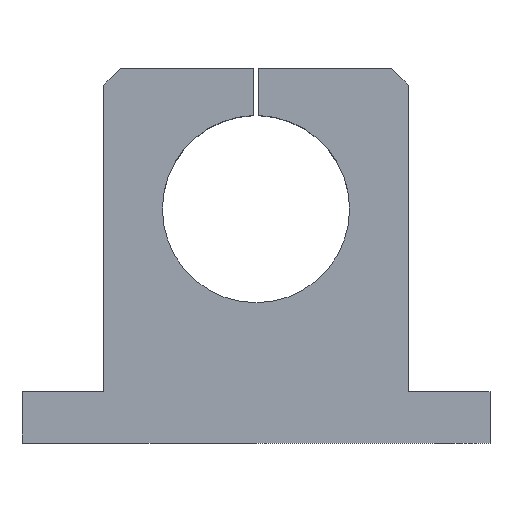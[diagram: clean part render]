
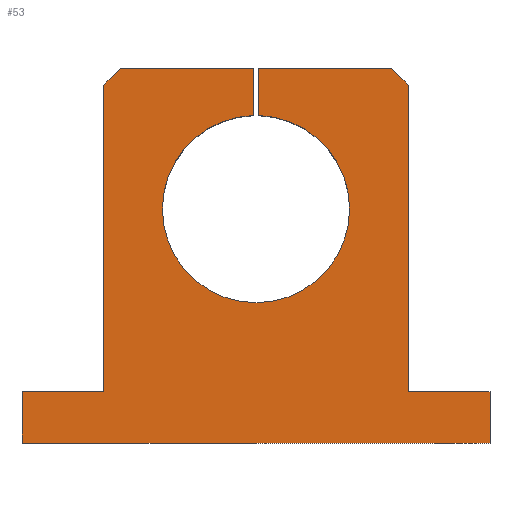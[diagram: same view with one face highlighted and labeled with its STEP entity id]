
A CAD part, top view. The second image highlights one B-rep face of the part: STEP entity #53.
In plain terms, the highlighted planar face has unit normal (0, 0, 1).
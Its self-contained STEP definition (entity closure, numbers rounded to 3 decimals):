
#1 = LINE ( 'NONE', #69, #617 ) ;
#5 = VECTOR ( 'NONE', #848, 1000. ) ;
#42 = DIRECTION ( 'NONE',  ( 0., 0., 1. ) ) ;
#49 = DIRECTION ( 'NONE',  ( 0., 1., 0. ) ) ;
#53 = ADVANCED_FACE ( 'NONE', ( #945 ), #229, .T. ) ;
#69 = CARTESIAN_POINT ( 'NONE',  ( -100., 80., 30. ) ) ;
#73 = ORIENTED_EDGE ( 'NONE', *, *, #534, .F. ) ;
#75 = VECTOR ( 'NONE', #49, 1000. ) ;
#80 = EDGE_CURVE ( 'NONE', #611, #485, #472, .T. ) ;
#95 = LINE ( 'NONE', #437, #223 ) ;
#103 = ORIENTED_EDGE ( 'NONE', *, *, #453, .T. ) ;
#108 = EDGE_CURVE ( 'NONE', #708, #190, #334, .T. ) ;
#109 = CARTESIAN_POINT ( 'NONE',  ( 100., -58., 30. ) ) ;
#122 = DIRECTION ( 'NONE',  ( -0.707, -0.707, 0. ) ) ;
#149 = CARTESIAN_POINT ( 'NONE',  ( -40., 20., 30. ) ) ;
#156 = AXIS2_PLACEMENT_3D ( 'NONE', #777, #42, #381 ) ;
#157 = CARTESIAN_POINT ( 'NONE',  ( -58., 80., 30. ) ) ;
#158 = VECTOR ( 'NONE', #248, 1000. ) ;
#164 = ORIENTED_EDGE ( 'NONE', *, *, #187, .F. ) ;
#166 = CARTESIAN_POINT ( 'NONE',  ( -1.075, 26.52, 30. ) ) ;
#184 = ORIENTED_EDGE ( 'NONE', *, *, #949, .T. ) ;
#187 = EDGE_CURVE ( 'NONE', #1054, #902, #652, .T. ) ;
#190 = VERTEX_POINT ( 'NONE', #807 ) ;
#206 = CARTESIAN_POINT ( 'NONE',  ( -100., -58., 30. ) ) ;
#208 = LINE ( 'NONE', #835, #310 ) ;
#218 = CARTESIAN_POINT ( 'NONE',  ( 65., 80., 30. ) ) ;
#223 = VECTOR ( 'NONE', #582, 1000. ) ;
#224 = CARTESIAN_POINT ( 'NONE',  ( 69., 69., 30. ) ) ;
#226 = DIRECTION ( 'NONE',  ( 0., -1., 0. ) ) ;
#229 = PLANE ( 'NONE',  #953 ) ;
#241 = LINE ( 'NONE', #340, #158 ) ;
#248 = DIRECTION ( 'NONE',  ( -1., 0., 0. ) ) ;
#255 = DIRECTION ( 'NONE',  ( 0., -1., 0. ) ) ;
#266 = DIRECTION ( 'NONE',  ( 0., 0., 1. ) ) ;
#276 = VECTOR ( 'NONE', #531, 1000. ) ;
#282 = EDGE_CURVE ( 'NONE', #583, #363, #684, .T. ) ;
#285 = ORIENTED_EDGE ( 'NONE', *, *, #439, .T. ) ;
#291 = ORIENTED_EDGE ( 'NONE', *, *, #80, .T. ) ;
#310 = VECTOR ( 'NONE', #122, 1000. ) ;
#314 = LINE ( 'NONE', #947, #75 ) ;
#334 = CIRCLE ( 'NONE', #918, 40. ) ;
#338 = VERTEX_POINT ( 'NONE', #644 ) ;
#340 = CARTESIAN_POINT ( 'NONE',  ( -100., 80., 30. ) ) ;
#363 = VERTEX_POINT ( 'NONE', #483 ) ;
#381 = DIRECTION ( 'NONE',  ( 1., 0., 0. ) ) ;
#387 = ORIENTED_EDGE ( 'NONE', *, *, #1040, .F. ) ;
#390 = DIRECTION ( 'NONE',  ( 1., 0., 0. ) ) ;
#405 = CARTESIAN_POINT ( 'NONE',  ( -100., -80., 30. ) ) ;
#417 = CARTESIAN_POINT ( 'NONE',  ( 0., 20., 30. ) ) ;
#418 = VECTOR ( 'NONE', #255, 1000. ) ;
#430 = CIRCLE ( 'NONE', #156, 40. ) ;
#432 = CARTESIAN_POINT ( 'NONE',  ( -100., -58., 30. ) ) ;
#436 = LINE ( 'NONE', #600, #632 ) ;
#437 = CARTESIAN_POINT ( 'NONE',  ( -100., 80., 30. ) ) ;
#439 = EDGE_CURVE ( 'NONE', #546, #611, #1, .T. ) ;
#442 = DIRECTION ( 'NONE',  ( 0., 1., 0. ) ) ;
#443 = VERTEX_POINT ( 'NONE', #884 ) ;
#453 = EDGE_CURVE ( 'NONE', #675, #338, #241, .T. ) ;
#462 = VECTOR ( 'NONE', #1018, 1000. ) ;
#472 = LINE ( 'NONE', #405, #849 ) ;
#483 = CARTESIAN_POINT ( 'NONE',  ( 100., -58., 30. ) ) ;
#485 = VERTEX_POINT ( 'NONE', #736 ) ;
#509 = AXIS2_PLACEMENT_3D ( 'NONE', #417, #641, #956 ) ;
#520 = EDGE_LOOP ( 'NONE', ( #73, #935, #910, #387, #164, #865, #184, #523, #767, #285, #291, #697, #610, #825, #719, #103 ) ) ;
#523 = ORIENTED_EDGE ( 'NONE', *, *, #733, .F. ) ;
#525 = VECTOR ( 'NONE', #226, 1000. ) ;
#531 = DIRECTION ( 'NONE',  ( -0.707, 0.707, 0. ) ) ;
#534 = EDGE_CURVE ( 'NONE', #443, #338, #436, .T. ) ;
#546 = VERTEX_POINT ( 'NONE', #432 ) ;
#549 = LINE ( 'NONE', #1023, #5 ) ;
#554 = VERTEX_POINT ( 'NONE', #836 ) ;
#556 = DIRECTION ( 'NONE',  ( 1., 0., 0. ) ) ;
#582 = DIRECTION ( 'NONE',  ( -1., 0., 0. ) ) ;
#583 = VERTEX_POINT ( 'NONE', #676 ) ;
#600 = CARTESIAN_POINT ( 'NONE',  ( 1.075, 26.52, 30. ) ) ;
#610 = ORIENTED_EDGE ( 'NONE', *, *, #282, .F. ) ;
#611 = VERTEX_POINT ( 'NONE', #996 ) ;
#617 = VECTOR ( 'NONE', #725, 1000. ) ;
#628 = DIRECTION ( 'NONE',  ( 0., 0., 1. ) ) ;
#629 = LINE ( 'NONE', #206, #462 ) ;
#632 = VECTOR ( 'NONE', #442, 1000. ) ;
#640 = CARTESIAN_POINT ( 'NONE',  ( 0., 0., 30. ) ) ;
#641 = DIRECTION ( 'NONE',  ( 0., 0., 1. ) ) ;
#643 = CARTESIAN_POINT ( 'NONE',  ( -1.075, 59.986, 30. ) ) ;
#644 = CARTESIAN_POINT ( 'NONE',  ( 1.075, 80., 30. ) ) ;
#652 = LINE ( 'NONE', #166, #418 ) ;
#658 = DIRECTION ( 'NONE',  ( 1., 0., 0. ) ) ;
#675 = VERTEX_POINT ( 'NONE', #1037 ) ;
#676 = CARTESIAN_POINT ( 'NONE',  ( 65., -58., 30. ) ) ;
#684 = LINE ( 'NONE', #109, #864 ) ;
#697 = ORIENTED_EDGE ( 'NONE', *, *, #871, .T. ) ;
#698 = EDGE_CURVE ( 'NONE', #546, #1025, #629, .T. ) ;
#708 = VERTEX_POINT ( 'NONE', #149 ) ;
#714 = EDGE_CURVE ( 'NONE', #924, #675, #788, .T. ) ;
#719 = ORIENTED_EDGE ( 'NONE', *, *, #714, .T. ) ;
#725 = DIRECTION ( 'NONE',  ( 0., -1., 0. ) ) ;
#733 = EDGE_CURVE ( 'NONE', #1025, #554, #549, .T. ) ;
#736 = CARTESIAN_POINT ( 'NONE',  ( 100., -80., 30. ) ) ;
#767 = ORIENTED_EDGE ( 'NONE', *, *, #698, .F. ) ;
#777 = CARTESIAN_POINT ( 'NONE',  ( 0., 20., 30. ) ) ;
#788 = LINE ( 'NONE', #224, #276 ) ;
#807 = CARTESIAN_POINT ( 'NONE',  ( 40., 20., 30. ) ) ;
#813 = EDGE_CURVE ( 'NONE', #190, #443, #961, .T. ) ;
#825 = ORIENTED_EDGE ( 'NONE', *, *, #914, .F. ) ;
#835 = CARTESIAN_POINT ( 'NONE',  ( -69., 69., 30. ) ) ;
#836 = CARTESIAN_POINT ( 'NONE',  ( -65., 73., 30. ) ) ;
#848 = DIRECTION ( 'NONE',  ( 0., 1., 0. ) ) ;
#849 = VECTOR ( 'NONE', #556, 1000. ) ;
#854 = CARTESIAN_POINT ( 'NONE',  ( -65., -58., 30. ) ) ;
#861 = VERTEX_POINT ( 'NONE', #157 ) ;
#862 = CARTESIAN_POINT ( 'NONE',  ( 65., 73., 30. ) ) ;
#864 = VECTOR ( 'NONE', #929, 1000. ) ;
#865 = ORIENTED_EDGE ( 'NONE', *, *, #1059, .T. ) ;
#871 = EDGE_CURVE ( 'NONE', #485, #363, #314, .T. ) ;
#884 = CARTESIAN_POINT ( 'NONE',  ( 1.075, 59.986, 30. ) ) ;
#902 = VERTEX_POINT ( 'NONE', #643 ) ;
#910 = ORIENTED_EDGE ( 'NONE', *, *, #108, .F. ) ;
#914 = EDGE_CURVE ( 'NONE', #924, #583, #1026, .T. ) ;
#918 = AXIS2_PLACEMENT_3D ( 'NONE', #967, #266, #658 ) ;
#924 = VERTEX_POINT ( 'NONE', #862 ) ;
#929 = DIRECTION ( 'NONE',  ( 1., 0., 0. ) ) ;
#935 = ORIENTED_EDGE ( 'NONE', *, *, #813, .F. ) ;
#945 = FACE_OUTER_BOUND ( 'NONE', #520, .T. ) ;
#947 = CARTESIAN_POINT ( 'NONE',  ( 100., 80., 30. ) ) ;
#949 = EDGE_CURVE ( 'NONE', #861, #554, #208, .T. ) ;
#953 = AXIS2_PLACEMENT_3D ( 'NONE', #640, #628, #390 ) ;
#956 = DIRECTION ( 'NONE',  ( 1., 0., 0. ) ) ;
#961 = CIRCLE ( 'NONE', #509, 40. ) ;
#967 = CARTESIAN_POINT ( 'NONE',  ( 0., 20., 30. ) ) ;
#996 = CARTESIAN_POINT ( 'NONE',  ( -100., -80., 30. ) ) ;
#1002 = CARTESIAN_POINT ( 'NONE',  ( -1.075, 80., 30. ) ) ;
#1018 = DIRECTION ( 'NONE',  ( 1., 0., 0. ) ) ;
#1023 = CARTESIAN_POINT ( 'NONE',  ( -65., 80., 30. ) ) ;
#1025 = VERTEX_POINT ( 'NONE', #854 ) ;
#1026 = LINE ( 'NONE', #218, #525 ) ;
#1037 = CARTESIAN_POINT ( 'NONE',  ( 58., 80., 30. ) ) ;
#1040 = EDGE_CURVE ( 'NONE', #902, #708, #430, .T. ) ;
#1054 = VERTEX_POINT ( 'NONE', #1002 ) ;
#1059 = EDGE_CURVE ( 'NONE', #1054, #861, #95, .T. ) ;
